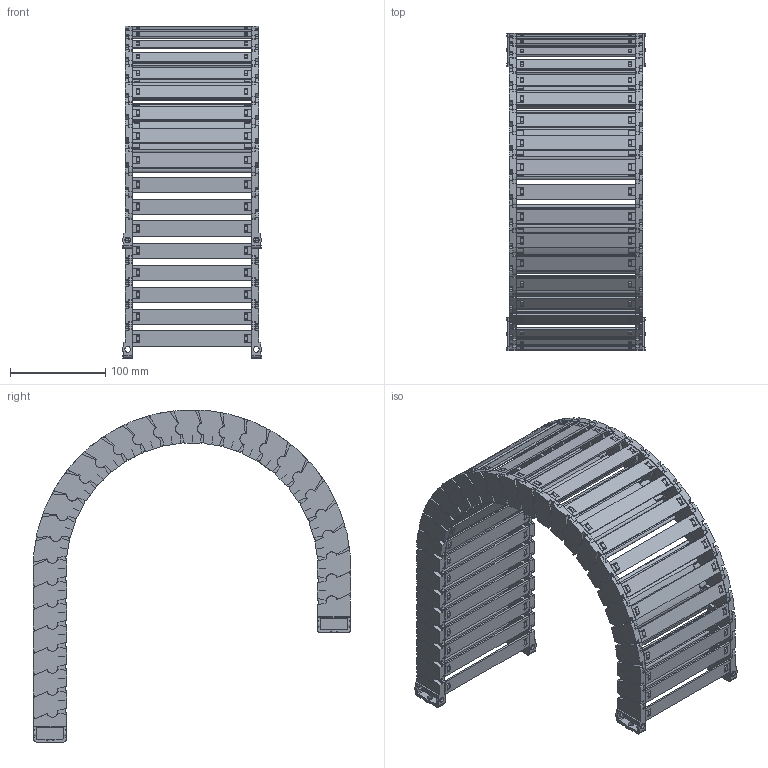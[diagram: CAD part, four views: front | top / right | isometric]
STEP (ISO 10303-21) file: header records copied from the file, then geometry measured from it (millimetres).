
FILE_DESCRIPTION((''),'2;1');
FILE_NAME('JY-25X125-R150_ASM','2022-05-07T11:29:09',('admin'),(''),'CREO PARAMETRIC BY PTC INC, 2021164','CREO PARAMETRIC BY PTC INC, 2021164','');
FILE_SCHEMA(('CONFIG_CONTROL_DESIGN','GEOMETRIC_VALIDATION_PROPERTIES_MIM'));
Length unit declared in the file: millimetre
Products named in the file (11): 25XL-L; 25-35XL-YP; 25XL-R; ASM0001_ASM; 25-LTT-A-L; 25-LTT-A-R; 25XL-LTT-A_ASM; 25-LTT-B-L; 25-LTT-B-R; 25XL-LTT-B_ASM; JY-25X125-R150_ASM
Assembly tree (42 placements, depth 3):
  JY-25X125-R150_ASM
    ASM0001_ASM  x28
      25XL-L
      25-35XL-YP
      25XL-R
    25XL-LTT-A_ASM
      25-LTT-A-L
      25-35XL-YP  x2
      25-LTT-A-R
    25XL-LTT-B_ASM
      25-LTT-B-L
      25-35XL-YP  x2
      25-LTT-B-R
Bounding box: 146.18 x 333.3 x 348.9 mm (x, y, z)
Volume: 719641 mm3; surface area: 527032.1 mm2
Topology: 120 solids, 148 shells, 6222 faces, 18602 edges, 12590 vertices
Faces by surface type: plane 4594, cylinder 1572, cone 56
Entity records: 24179 total; most frequent: CARTESIAN_POINT 3140, DIRECTION 3035, ORIENTED_EDGE 2962, EDGE_CURVE 1483, PRESENTATION_STYLE_ASSIGNMENT 1413, STYLED_ITEM 1381, VECTOR 1053, LINE 1053
